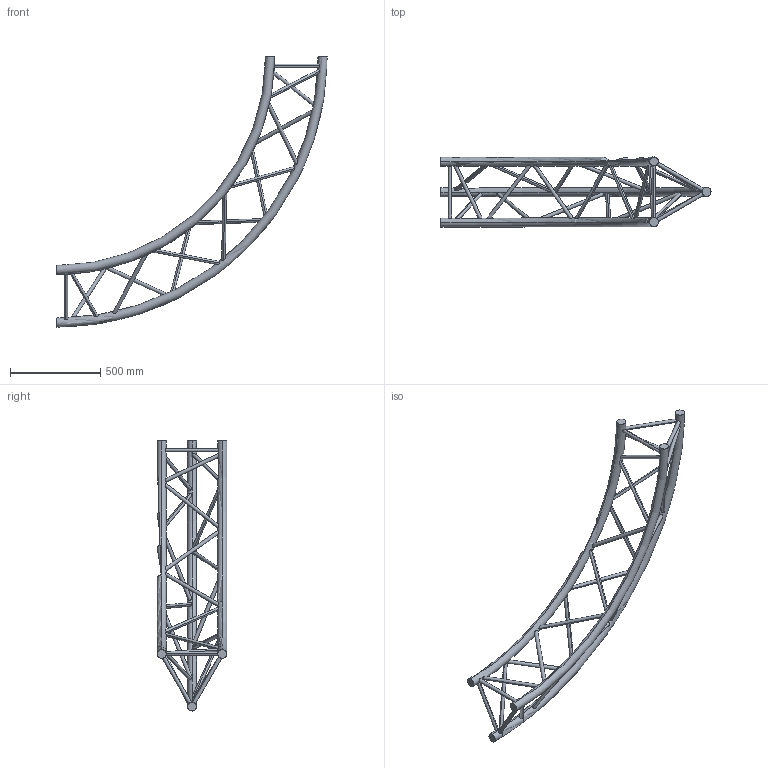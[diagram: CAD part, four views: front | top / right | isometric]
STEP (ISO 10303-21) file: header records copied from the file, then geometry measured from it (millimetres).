
FILE_DESCRIPTION (( 'STEP AP203' ), '1' );
FILE_NAME ('SXC39300PE.STEP', '2009-10-21T11:57:36', ( 'CEDIA' ), ( 'CEDIA INDUSTRIE' ), 'SwSTEP 2.0', 'SolidWorks 2009', '' );
FILE_SCHEMA (( 'CONFIG_CONTROL_DESIGN' ));
Length unit declared in the file: millimetre
Products named in the file (1): SXC39300PE
Bounding box: 1500 x 387 x 1500 mm (x, y, z)
Volume: 14812609.5 mm3; surface area: 1533318.7 mm2
Topology: 1 solids, 1 shells, 66 faces, 186 edges, 124 vertices
Faces by surface type: cylinder 54, torus 6, plane 6
Entity records: 7384 total; most frequent: CARTESIAN_POINT 5701, ORIENTED_EDGE 372, DIRECTION 226, EDGE_CURVE 186, VERTEX_POINT 124, EDGE_LOOP 118, B_SPLINE_CURVE_WITH_KNOTS 113, AXIS2_PLACEMENT_3D 86
